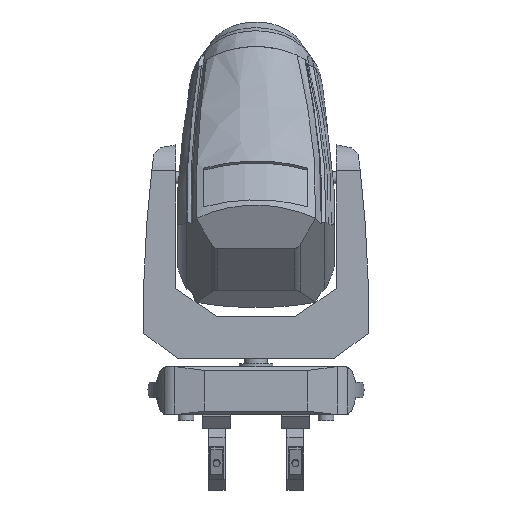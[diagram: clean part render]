
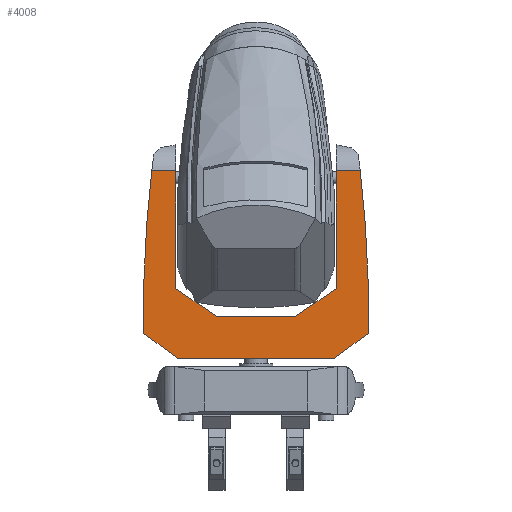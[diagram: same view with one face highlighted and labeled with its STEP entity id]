
A CAD part, left-side view. The second image highlights one B-rep face of the part: STEP entity #4008.
In plain terms, the highlighted planar face has unit normal (-1, 0, 0).
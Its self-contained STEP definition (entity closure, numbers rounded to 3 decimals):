
#341=CIRCLE('',#4373,2158.421);
#342=CIRCLE('',#4374,2158.421);
#771=ORIENTED_EDGE('',*,*,#1774,.T.);
#772=ORIENTED_EDGE('',*,*,#1777,.T.);
#773=ORIENTED_EDGE('',*,*,#1778,.T.);
#774=ORIENTED_EDGE('',*,*,#1779,.T.);
#775=ORIENTED_EDGE('',*,*,#1780,.T.);
#776=ORIENTED_EDGE('',*,*,#1781,.T.);
#777=ORIENTED_EDGE('',*,*,#1767,.T.);
#778=ORIENTED_EDGE('',*,*,#1782,.T.);
#779=ORIENTED_EDGE('',*,*,#1783,.T.);
#780=ORIENTED_EDGE('',*,*,#1784,.F.);
#781=ORIENTED_EDGE('',*,*,#1785,.T.);
#782=ORIENTED_EDGE('',*,*,#1786,.T.);
#1767=EDGE_CURVE('',#2303,#2304,#2676,.T.);
#1774=EDGE_CURVE('',#2311,#2310,#2677,.T.);
#1777=EDGE_CURVE('',#2310,#2313,#2678,.T.);
#1778=EDGE_CURVE('',#2313,#2314,#2679,.T.);
#1779=EDGE_CURVE('',#2314,#2315,#2680,.T.);
#1780=EDGE_CURVE('',#2315,#2316,#2681,.T.);
#1781=EDGE_CURVE('',#2316,#2303,#2682,.T.);
#1782=EDGE_CURVE('',#2304,#2317,#341,.T.);
#1783=EDGE_CURVE('',#2317,#2318,#2683,.T.);
#1784=EDGE_CURVE('',#2319,#2318,#2684,.T.);
#1785=EDGE_CURVE('',#2319,#2320,#2685,.T.);
#1786=EDGE_CURVE('',#2320,#2311,#342,.T.);
#2303=VERTEX_POINT('',#6269);
#2304=VERTEX_POINT('',#6270);
#2310=VERTEX_POINT('',#6289);
#2311=VERTEX_POINT('',#6291);
#2313=VERTEX_POINT('',#6303);
#2314=VERTEX_POINT('',#6305);
#2315=VERTEX_POINT('',#6307);
#2316=VERTEX_POINT('',#6309);
#2317=VERTEX_POINT('',#6312);
#2318=VERTEX_POINT('',#6314);
#2319=VERTEX_POINT('',#6316);
#2320=VERTEX_POINT('',#6318);
#2676=LINE('',#6268,#2992);
#2677=LINE('',#6290,#2993);
#2678=LINE('',#6302,#2994);
#2679=LINE('',#6304,#2995);
#2680=LINE('',#6306,#2996);
#2681=LINE('',#6308,#2997);
#2682=LINE('',#6310,#2998);
#2683=LINE('',#6313,#2999);
#2684=LINE('',#6315,#3000);
#2685=LINE('',#6317,#3001);
#2992=VECTOR('',#4961,1000.);
#2993=VECTOR('',#4974,1000.);
#2994=VECTOR('',#4979,1000.);
#2995=VECTOR('',#4980,1000.);
#2996=VECTOR('',#4981,1000.);
#2997=VECTOR('',#4982,1000.);
#2998=VECTOR('',#4983,1000.);
#2999=VECTOR('',#4986,1000.);
#3000=VECTOR('',#4987,1000.);
#3001=VECTOR('',#4988,1000.);
#3308=EDGE_LOOP('',(#771,#772,#773,#774,#775,#776,#777,#778,#779,#780,#781,
#782));
#3596=FACE_BOUND('',#3308,.T.);
#3836=PLANE('',#4372);
#4008=ADVANCED_FACE('',(#3596),#3836,.T.);
#4372=AXIS2_PLACEMENT_3D('',#6301,#4977,#4978);
#4373=AXIS2_PLACEMENT_3D('',#6311,#4984,#4985);
#4374=AXIS2_PLACEMENT_3D('',#6319,#4989,#4990);
#4961=DIRECTION('',(0.,1.,0.));
#4974=DIRECTION('',(0.,1.,0.));
#4977=DIRECTION('',(-1.,0.,0.));
#4978=DIRECTION('',(0.,0.,1.));
#4979=DIRECTION('',(0.,0.,-1.));
#4980=DIRECTION('',(0.,0.826,-0.564));
#4981=DIRECTION('',(0.,1.,0.));
#4982=DIRECTION('',(0.,0.826,0.564));
#4983=DIRECTION('',(0.,0.,1.));
#4984=DIRECTION('',(-1.,0.,0.));
#4985=DIRECTION('',(0.,0.,1.));
#4986=DIRECTION('',(0.,-0.805,-0.593));
#4987=DIRECTION('',(0.,1.,0.));
#4988=DIRECTION('',(0.,-0.805,0.593));
#4989=DIRECTION('',(-1.,0.,0.));
#4990=DIRECTION('',(0.,0.,1.));
#6268=CARTESIAN_POINT('',(-56.772,-225.,422.833));
#6269=CARTESIAN_POINT('',(-56.772,142.712,422.833));
#6270=CARTESIAN_POINT('',(-56.772,185.433,422.833));
#6289=CARTESIAN_POINT('',(-56.772,-142.712,422.833));
#6290=CARTESIAN_POINT('',(-56.772,-225.,422.833));
#6291=CARTESIAN_POINT('',(-56.772,-185.433,422.833));
#6301=CARTESIAN_POINT('',(-56.772,-225.,89.663));
#6302=CARTESIAN_POINT('',(-56.772,-142.712,89.663));
#6303=CARTESIAN_POINT('',(-56.772,-142.712,213.541));
#6304=CARTESIAN_POINT('',(-56.772,-141.122,212.455));
#6305=CARTESIAN_POINT('',(-56.772,-70.61,164.289));
#6306=CARTESIAN_POINT('',(-56.772,-225.,164.289));
#6307=CARTESIAN_POINT('',(-56.772,70.61,164.289));
#6308=CARTESIAN_POINT('',(-56.772,-165.707,2.863));
#6309=CARTESIAN_POINT('',(-56.772,142.712,213.541));
#6310=CARTESIAN_POINT('',(-56.772,142.712,89.663));
#6311=CARTESIAN_POINT('',(-56.772,-1958.344,171.826));
#6312=CARTESIAN_POINT('',(-56.772,199.742,133.772));
#6313=CARTESIAN_POINT('',(-56.772,-96.853,-84.482));
#6314=CARTESIAN_POINT('',(-56.772,139.801,89.663));
#6315=CARTESIAN_POINT('',(-56.772,-225.,89.663));
#6316=CARTESIAN_POINT('',(-56.772,-139.801,89.663));
#6317=CARTESIAN_POINT('',(-56.772,-195.071,130.335));
#6318=CARTESIAN_POINT('',(-56.772,-199.742,133.772));
#6319=CARTESIAN_POINT('',(-56.772,1958.344,171.826));
